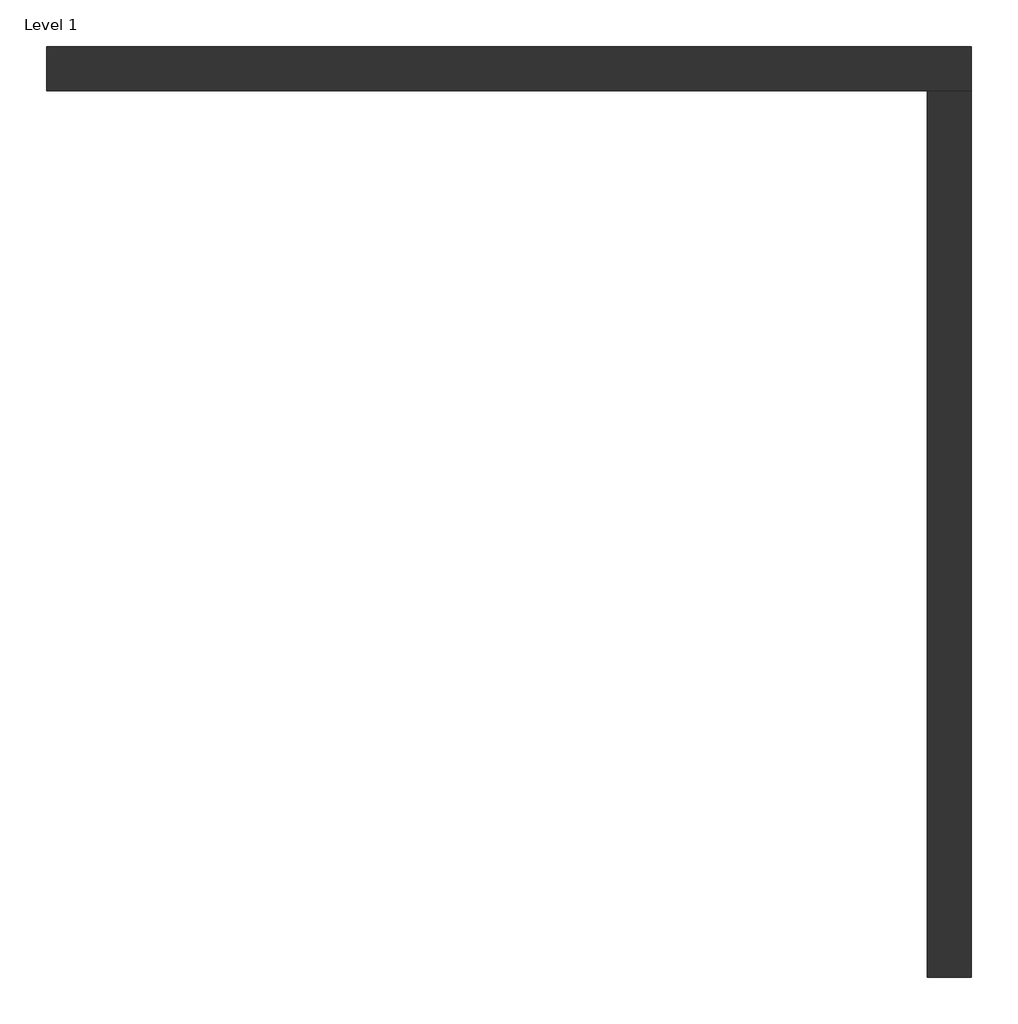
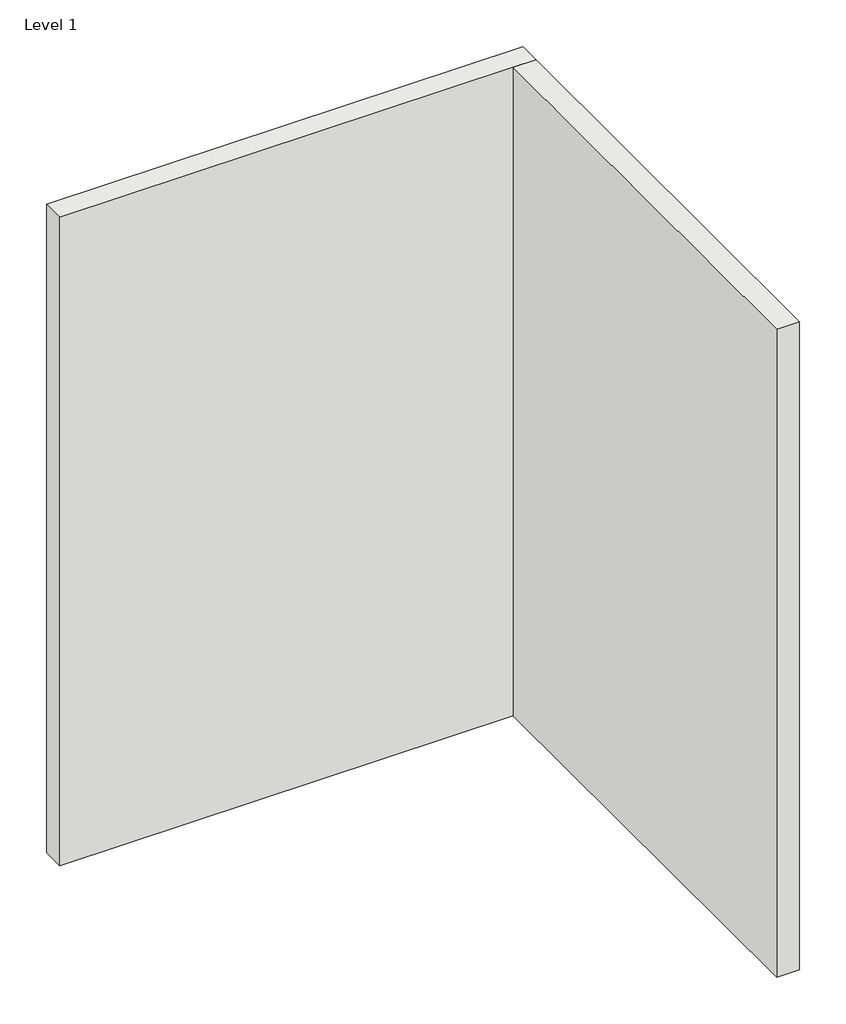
# One storey: 2 walls.
"""IFC4 building model written with IfcOpenShell, lengths in millimetres."""

from ifc_helpers import new_model, si_unit, origin, origin_with_axes, place, context, project, spatial, polyline, outline, extrude, faceted_brep, element, save

model = new_model("IFC4")

# Units and contexts
model_context = context("Model", 3, world=origin())
ifc_project = project(units=[si_unit("LENGTHUNIT", "METRE", prefix="MILLI")], contexts=[model_context])

# Site, building, storey
site = spatial("IfcSite", under=ifc_project)
building = spatial("IfcBuilding", under=site)
storey = spatial("IfcBuildingStorey", under=building, Name="Level 1", Elevation=0.0)

# Walls
placement = place(None, origin())
element("IfcWall", 1, ObjectType="Generic - 8\"", at=placement, inside=storey, context=model_context, shape_type="Brep", body=[
    faceted_brep([(-2311.6602902, -741.8838621, 0.0), (1723.5911572, -741.8838621, 0.0), (1926.7911572, -741.8838621, 0.0), (1926.7911572, -741.8838621, 6096.0), (1723.5911572, -741.8838621, 6096.0), (-2311.6602902, -741.8838621, 6096.0), (-2311.6602902, -538.6838621, 0.0), (-2311.6602902, -538.6838621, 6096.0), (1926.7911572, -538.6838621, 6096.0), (1926.7911572, -538.6838621, 0.0)], [[[0, 1, 2, 3, 4, 5]], [[6, 7, 8, 9]], [[2, 1, 0, 6, 9]], [[5, 4, 3, 8, 7]], [[0, 5, 7, 6]], [[3, 2, 9, 8]]]),
])
element("IfcWall", 2, ObjectType="Generic - 8\"", at=placement, inside=storey, context=model_context, shape_type="SweptSolid", body=[
    extrude(outline(polyline([(1723.5911572, -4802.4316777), (1723.5911572, -741.8838621), (1926.7911572, -741.8838621), (1926.7911572, -4802.4316777), (1723.5911572, -4802.4316777)])), origin_with_axes(), (0.0, 0.0, 1.0), 6096.0),
])

save(model, "model.ifc")
